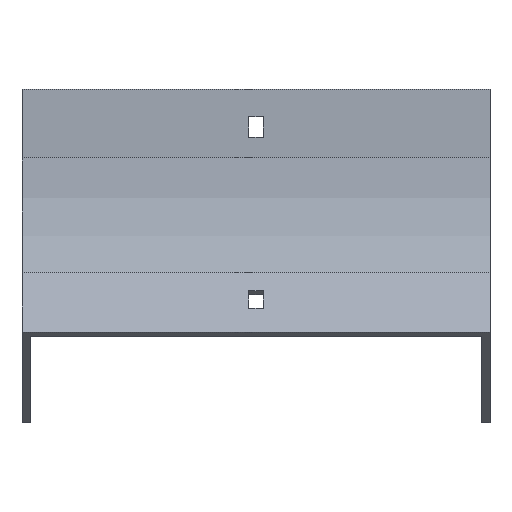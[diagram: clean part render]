
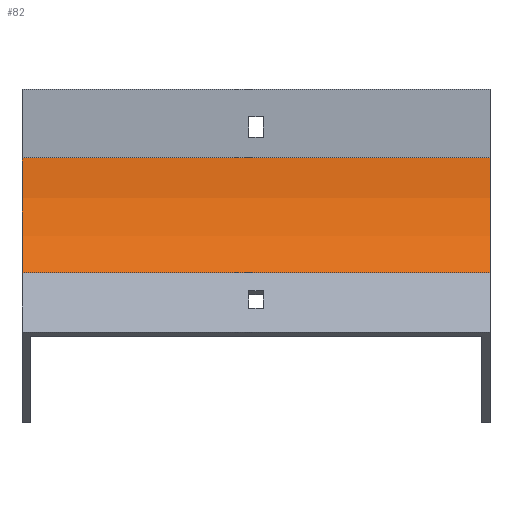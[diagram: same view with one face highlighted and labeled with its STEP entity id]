
A CAD part, front view. The second image highlights one B-rep face of the part: STEP entity #82.
In plain terms, the highlighted cylindrical face has radius 100 mm (diameter 200 mm), a partial arc.
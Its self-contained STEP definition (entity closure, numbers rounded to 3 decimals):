
#82 = ADVANCED_FACE ( 'NONE', ( #305 ), #419, .F. ) ;
#110 = VERTEX_POINT ( 'NONE', #271 ) ;
#127 = DIRECTION ( 'NONE',  ( 0., 0., 1. ) ) ;
#254 = VERTEX_POINT ( 'NONE', #1334 ) ;
#262 = CARTESIAN_POINT ( 'NONE',  ( -102., -100., -30. ) ) ;
#271 = CARTESIAN_POINT ( 'NONE',  ( 102., -13.397, -80. ) ) ;
#305 = FACE_OUTER_BOUND ( 'NONE', #1115, .T. ) ;
#399 = CIRCLE ( 'NONE', #735, 100. ) ;
#417 = DIRECTION ( 'NONE',  ( -1., 0., 0. ) ) ;
#419 = CYLINDRICAL_SURFACE ( 'NONE', #1293, 100. ) ;
#457 = CARTESIAN_POINT ( 'NONE',  ( 102., -13.397, -80. ) ) ;
#493 = VECTOR ( 'NONE', #1483, 1000. ) ;
#498 = ORIENTED_EDGE ( 'NONE', *, *, #1272, .F. ) ;
#551 = ORIENTED_EDGE ( 'NONE', *, *, #1852, .T. ) ;
#570 = CARTESIAN_POINT ( 'NONE',  ( 102., 0., -30. ) ) ;
#588 = DIRECTION ( 'NONE',  ( -1., 0., 0. ) ) ;
#694 = EDGE_CURVE ( 'NONE', #1314, #110, #399, .T. ) ;
#695 = CARTESIAN_POINT ( 'NONE',  ( 102., -100., -30. ) ) ;
#735 = AXIS2_PLACEMENT_3D ( 'NONE', #695, #417, #127 ) ;
#764 = DIRECTION ( 'NONE',  ( 0., 0., 1. ) ) ;
#843 = DIRECTION ( 'NONE',  ( -1., 0., 0. ) ) ;
#890 = LINE ( 'NONE', #457, #493 ) ;
#905 = AXIS2_PLACEMENT_3D ( 'NONE', #262, #1523, #764 ) ;
#996 = CARTESIAN_POINT ( 'NONE',  ( -102., 0., -30. ) ) ;
#1077 = ORIENTED_EDGE ( 'NONE', *, *, #694, .F. ) ;
#1115 = EDGE_LOOP ( 'NONE', ( #551, #498, #1077, #1896 ) ) ;
#1145 = EDGE_CURVE ( 'NONE', #1314, #1196, #1158, .T. ) ;
#1158 = LINE ( 'NONE', #570, #1925 ) ;
#1196 = VERTEX_POINT ( 'NONE', #996 ) ;
#1272 = EDGE_CURVE ( 'NONE', #110, #254, #890, .T. ) ;
#1293 = AXIS2_PLACEMENT_3D ( 'NONE', #1913, #588, #1643 ) ;
#1314 = VERTEX_POINT ( 'NONE', #1362 ) ;
#1334 = CARTESIAN_POINT ( 'NONE',  ( -102., -13.397, -80. ) ) ;
#1362 = CARTESIAN_POINT ( 'NONE',  ( 102., 0., -30. ) ) ;
#1483 = DIRECTION ( 'NONE',  ( -1., 0., 0. ) ) ;
#1523 = DIRECTION ( 'NONE',  ( -1., 0., 0. ) ) ;
#1643 = DIRECTION ( 'NONE',  ( 0., 0., 1. ) ) ;
#1739 = CIRCLE ( 'NONE', #905, 100. ) ;
#1852 = EDGE_CURVE ( 'NONE', #1196, #254, #1739, .T. ) ;
#1896 = ORIENTED_EDGE ( 'NONE', *, *, #1145, .T. ) ;
#1913 = CARTESIAN_POINT ( 'NONE',  ( 102., -100., -30. ) ) ;
#1925 = VECTOR ( 'NONE', #843, 1000. ) ;
